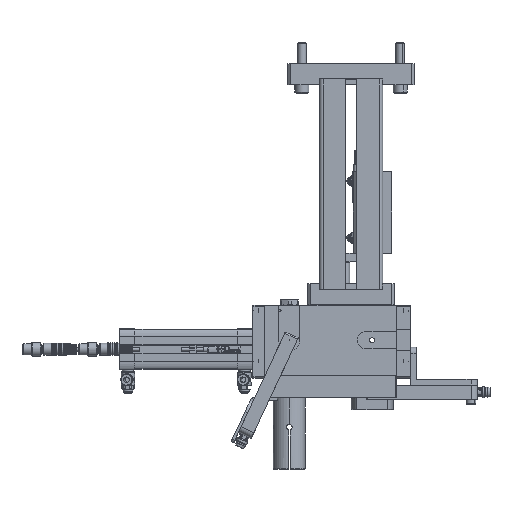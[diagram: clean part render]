
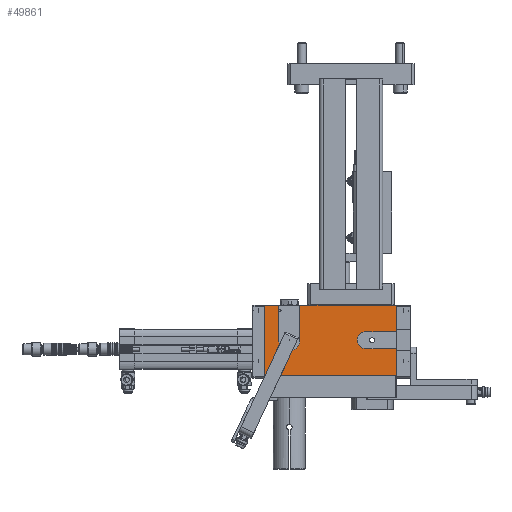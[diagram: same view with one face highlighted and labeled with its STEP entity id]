
A CAD part, top view. The second image highlights one B-rep face of the part: STEP entity #49861.
In plain terms, the highlighted planar face has unit normal (0, 0, 1).
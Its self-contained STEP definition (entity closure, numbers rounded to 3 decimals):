
#315 = VERTEX_POINT ( 'NONE', #70777 ) ;
#425 = EDGE_CURVE ( 'NONE', #82052, #12107, #26846, .T. ) ;
#490 = CARTESIAN_POINT ( 'NONE',  ( 32.5, -172., -8.5 ) ) ;
#908 = CARTESIAN_POINT ( 'NONE',  ( 32.5, -172., -8.5 ) ) ;
#2088 = CARTESIAN_POINT ( 'NONE',  ( 32.5, -172., -8.5 ) ) ;
#6010 = CARTESIAN_POINT ( 'NONE',  ( 32.5, -172., -8.5 ) ) ;
#6809 = AXIS2_PLACEMENT_3D ( 'NONE', #9480, #35748, #61975 ) ;
#7235 = CARTESIAN_POINT ( 'NONE',  ( -44., -197., -8.5 ) ) ;
#7480 = VECTOR ( 'NONE', #38954, 1000. ) ;
#8554 = VERTEX_POINT ( 'NONE', #68445 ) ;
#9107 = CARTESIAN_POINT ( 'NONE',  ( -36.5, -172., -8.5 ) ) ;
#9480 = CARTESIAN_POINT ( 'NONE',  ( 10.5, -197., -8.5 ) ) ;
#9602 = VERTEX_POINT ( 'NONE', #62844 ) ;
#10629 = ORIENTED_EDGE ( 'NONE', *, *, #27532, .F. ) ;
#11082 = ORIENTED_EDGE ( 'NONE', *, *, #81719, .F. ) ;
#12107 = VERTEX_POINT ( 'NONE', #83644 ) ;
#12844 = VERTEX_POINT ( 'NONE', #72955 ) ;
#13443 = CARTESIAN_POINT ( 'NONE',  ( 10.5, -203., -8.5 ) ) ;
#14265 = DIRECTION ( 'NONE',  ( 0., -1., 0. ) ) ;
#14525 = VECTOR ( 'NONE', #48142, 1000. ) ;
#15087 = DIRECTION ( 'NONE',  ( -1., 0., 0. ) ) ;
#15324 = DIRECTION ( 'NONE',  ( 0., -1., 0. ) ) ;
#15599 = DIRECTION ( 'NONE',  ( 1., 0., 0. ) ) ;
#17233 = VERTEX_POINT ( 'NONE', #19817 ) ;
#18106 = DIRECTION ( 'NONE',  ( 1., 0., 0. ) ) ;
#18697 = EDGE_CURVE ( 'NONE', #66045, #17233, #36078, .T. ) ;
#19140 = CIRCLE ( 'NONE', #6809, 6. ) ;
#19817 = CARTESIAN_POINT ( 'NONE',  ( -61.5, -222., -8.5 ) ) ;
#20806 = ORIENTED_EDGE ( 'NONE', *, *, #32873, .T. ) ;
#21328 = EDGE_CURVE ( 'NONE', #8554, #66045, #40078, .T. ) ;
#24212 = EDGE_CURVE ( 'NONE', #9602, #12844, #79360, .T. ) ;
#24217 = EDGE_LOOP ( 'NONE', ( #76505, #34794, #31296, #10629, #65589, #11082, #83329, #26966, #38903, #47851, #59443, #20806, #74984 ) ) ;
#26264 = FACE_OUTER_BOUND ( 'NONE', #24217, .T. ) ;
#26846 = LINE ( 'NONE', #490, #84601 ) ;
#26966 = ORIENTED_EDGE ( 'NONE', *, *, #44887, .T. ) ;
#27219 = CARTESIAN_POINT ( 'NONE',  ( 32.5, -222., -8.5 ) ) ;
#27532 = EDGE_CURVE ( 'NONE', #45991, #34514, #70321, .T. ) ;
#29086 = VECTOR ( 'NONE', #46285, 1000. ) ;
#31296 = ORIENTED_EDGE ( 'NONE', *, *, #66215, .T. ) ;
#31846 = VERTEX_POINT ( 'NONE', #84495 ) ;
#32873 = EDGE_CURVE ( 'NONE', #51368, #9602, #19140, .T. ) ;
#33076 = EDGE_CURVE ( 'NONE', #31846, #45991, #81179, .T. ) ;
#33587 = LINE ( 'NONE', #2088, #71906 ) ;
#34514 = VERTEX_POINT ( 'NONE', #9107 ) ;
#34794 = ORIENTED_EDGE ( 'NONE', *, *, #425, .F. ) ;
#34916 = VECTOR ( 'NONE', #14265, 1000. ) ;
#35748 = DIRECTION ( 'NONE',  ( 0., 0., -1. ) ) ;
#36078 = LINE ( 'NONE', #56250, #14525 ) ;
#36754 = CARTESIAN_POINT ( 'NONE',  ( 10.5, -191., -8.5 ) ) ;
#37612 = CARTESIAN_POINT ( 'NONE',  ( -36.5, -197., -8.5 ) ) ;
#38903 = ORIENTED_EDGE ( 'NONE', *, *, #18697, .F. ) ;
#38954 = DIRECTION ( 'NONE',  ( -1., 0., 0. ) ) ;
#39694 = DIRECTION ( 'NONE',  ( -1., 0., 0. ) ) ;
#40078 = LINE ( 'NONE', #73240, #34916 ) ;
#40386 = DIRECTION ( 'NONE',  ( -1., 0., 0. ) ) ;
#43520 = EDGE_CURVE ( 'NONE', #8554, #51368, #52640, .T. ) ;
#44887 = EDGE_CURVE ( 'NONE', #315, #17233, #78984, .T. ) ;
#45991 = VERTEX_POINT ( 'NONE', #59562 ) ;
#46229 = EDGE_CURVE ( 'NONE', #12844, #12107, #55682, .T. ) ;
#46285 = DIRECTION ( 'NONE',  ( 0., -1., 0. ) ) ;
#47851 = ORIENTED_EDGE ( 'NONE', *, *, #21328, .F. ) ;
#47893 = LINE ( 'NONE', #71259, #7480 ) ;
#47913 = CARTESIAN_POINT ( 'NONE',  ( 10.5, -197., -8.5 ) ) ;
#48142 = DIRECTION ( 'NONE',  ( -1., 0., 0. ) ) ;
#49861 = ADVANCED_FACE ( 'NONE', ( #26264 ), #51678, .F. ) ;
#50484 = VECTOR ( 'NONE', #84163, 1000. ) ;
#51368 = VERTEX_POINT ( 'NONE', #79027 ) ;
#51678 = PLANE ( 'NONE',  #76396 ) ;
#52640 = LINE ( 'NONE', #13443, #79624 ) ;
#53148 = CARTESIAN_POINT ( 'NONE',  ( -61.5, -172., -8.5 ) ) ;
#53614 = CARTESIAN_POINT ( 'NONE',  ( -51.5, -172., -8.5 ) ) ;
#55682 = LINE ( 'NONE', #36754, #79792 ) ;
#56250 = CARTESIAN_POINT ( 'NONE',  ( 32.5, -222., -8.5 ) ) ;
#59443 = ORIENTED_EDGE ( 'NONE', *, *, #43520, .T. ) ;
#59562 = CARTESIAN_POINT ( 'NONE',  ( -36.5, -197., -8.5 ) ) ;
#61975 = DIRECTION ( 'NONE',  ( 1., 0., 0. ) ) ;
#62844 = CARTESIAN_POINT ( 'NONE',  ( 4.5, -197., -8.5 ) ) ;
#65589 = ORIENTED_EDGE ( 'NONE', *, *, #33076, .F. ) ;
#65864 = DIRECTION ( 'NONE',  ( 0., 0., -1. ) ) ;
#66045 = VERTEX_POINT ( 'NONE', #27219 ) ;
#66130 = CARTESIAN_POINT ( 'NONE',  ( -51.5, -197., -8.5 ) ) ;
#66215 = EDGE_CURVE ( 'NONE', #82052, #34514, #33587, .T. ) ;
#66621 = VERTEX_POINT ( 'NONE', #53614 ) ;
#66852 = DIRECTION ( 'NONE',  ( 0., 0., -1. ) ) ;
#67311 = EDGE_CURVE ( 'NONE', #66621, #315, #47893, .T. ) ;
#68445 = CARTESIAN_POINT ( 'NONE',  ( 32.5, -203., -8.5 ) ) ;
#70321 = LINE ( 'NONE', #37612, #50484 ) ;
#70777 = CARTESIAN_POINT ( 'NONE',  ( -61.5, -172., -8.5 ) ) ;
#71259 = CARTESIAN_POINT ( 'NONE',  ( 32.5, -172., -8.5 ) ) ;
#71906 = VECTOR ( 'NONE', #15087, 1000. ) ;
#72955 = CARTESIAN_POINT ( 'NONE',  ( 10.5, -191., -8.5 ) ) ;
#73240 = CARTESIAN_POINT ( 'NONE',  ( 32.5, -172., -8.5 ) ) ;
#73356 = DIRECTION ( 'NONE',  ( 0., -1., 0. ) ) ;
#74984 = ORIENTED_EDGE ( 'NONE', *, *, #24212, .T. ) ;
#76396 = AXIS2_PLACEMENT_3D ( 'NONE', #6010, #65864, #18106 ) ;
#76505 = ORIENTED_EDGE ( 'NONE', *, *, #46229, .T. ) ;
#76948 = VECTOR ( 'NONE', #15324, 1000. ) ;
#77012 = AXIS2_PLACEMENT_3D ( 'NONE', #7235, #79615, #40386 ) ;
#78984 = LINE ( 'NONE', #53148, #29086 ) ;
#79027 = CARTESIAN_POINT ( 'NONE',  ( 10.5, -203., -8.5 ) ) ;
#79360 = CIRCLE ( 'NONE', #80745, 6. ) ;
#79615 = DIRECTION ( 'NONE',  ( 0., 0., 1. ) ) ;
#79624 = VECTOR ( 'NONE', #39694, 1000. ) ;
#79792 = VECTOR ( 'NONE', #82024, 1000. ) ;
#80348 = LINE ( 'NONE', #66130, #76948 ) ;
#80745 = AXIS2_PLACEMENT_3D ( 'NONE', #47913, #66852, #15599 ) ;
#81179 = CIRCLE ( 'NONE', #77012, 7.5 ) ;
#81719 = EDGE_CURVE ( 'NONE', #66621, #31846, #80348, .T. ) ;
#82024 = DIRECTION ( 'NONE',  ( 1., 0., 0. ) ) ;
#82052 = VERTEX_POINT ( 'NONE', #908 ) ;
#83329 = ORIENTED_EDGE ( 'NONE', *, *, #67311, .T. ) ;
#83644 = CARTESIAN_POINT ( 'NONE',  ( 32.5, -191., -8.5 ) ) ;
#84163 = DIRECTION ( 'NONE',  ( 0., 1., 0. ) ) ;
#84495 = CARTESIAN_POINT ( 'NONE',  ( -51.5, -197., -8.5 ) ) ;
#84601 = VECTOR ( 'NONE', #73356, 1000. ) ;
